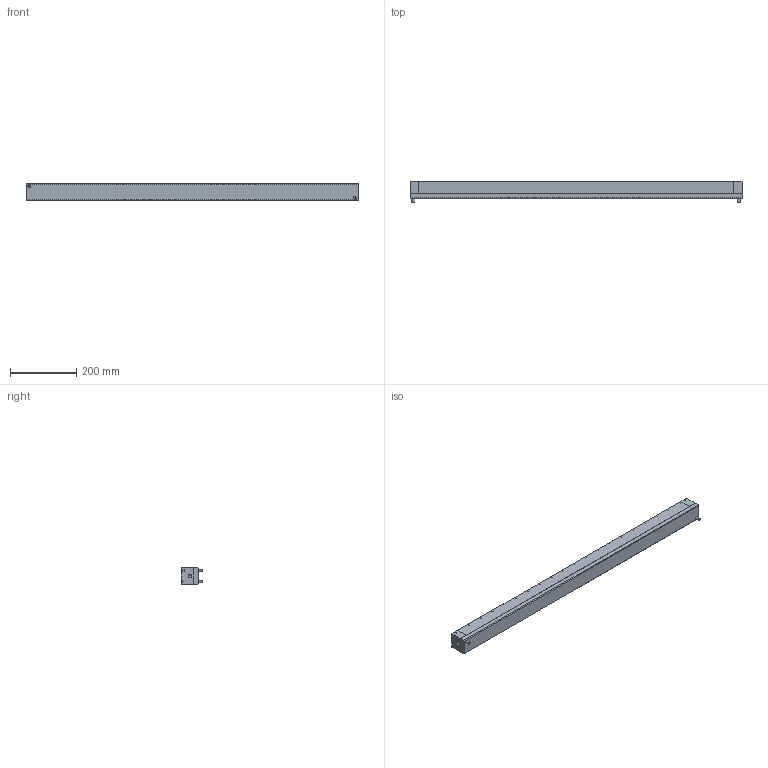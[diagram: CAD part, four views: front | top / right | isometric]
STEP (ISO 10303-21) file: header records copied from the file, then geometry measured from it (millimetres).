
FILE_DESCRIPTION( ( 'STEP AP214' ), '1' );
FILE_NAME( 'Z:/01-DesignData/標準品図面/★Web／カタログ用データ(型式別 3点Set)/069-ISR50S 系/ISR-50S-1000-A_0_.stp', '2022-05-10T00:23:22', ( 'License CC BY-ND 4.0' ), ( 'CADENAS' ), ' ', 'PARTsolutions', ' ' );
FILE_SCHEMA( ( 'AUTOMOTIVE_DESIGN { 1 0 10303 214 1 1 1 1 }' ) );
Length unit declared in the file: millimetre
Products named in the file (5): ISR-50S-1000-A(0); _ISR-50S-1000-A-Body; _ISR-50S-1000-A-Box; _ISR-50S-1000-A(0)-Ball; _ISR-50S-1000-A-screw
Assembly tree (23 placements, depth 2):
  ISR-50S-1000-A(0)
    _ISR-50S-1000-A-Body
    _ISR-50S-1000-A-Box
    _ISR-50S-1000-A(0)-Ball  x19
    _ISR-50S-1000-A-screw  x2
Bounding box: 1000 x 64 x 49.5 mm (x, y, z)
Volume: 2420499.4 mm3; surface area: 547572.2 mm2
Topology: 23 solids, 23 shells, 1097 faces, 2296 edges, 1424 vertices
Faces by surface type: plane 769, cylinder 183, cone 84, torus 42, sphere 19
Full cylindrical faces by diameter (mm): 8 x2, 8.5 x38, 9 x2, 9.5 x38, 13 x4, 14.5 x4, 33 x19, 38.5 x19, 39 x19, 42 x38
Entity records: 29316 total; most frequent: DIRECTION 3982, CARTESIAN_POINT 3670, ORIENTED_EDGE 3256, EDGE_CURVE 1628, AXIS2_PLACEMENT_3D 1451, EDGE_LOOP 1222, VERTEX_POINT 1139, LINE 1080
